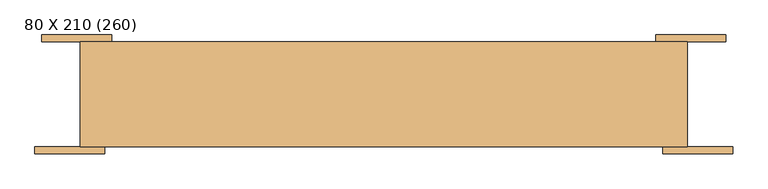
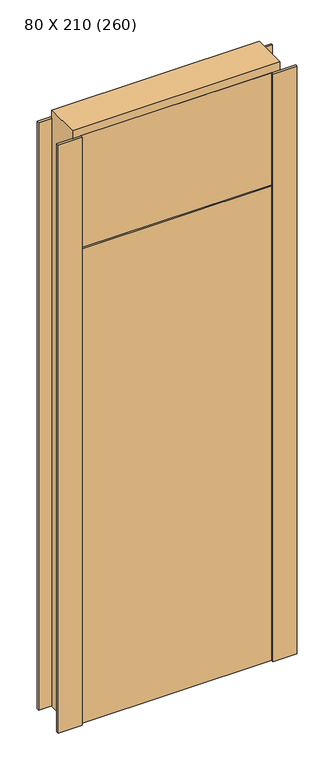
"""IFC4 building model written with IfcOpenShell, lengths in millimetres: door geometry, PORTA DE ABRIR - 1 FOLHA + BANDEIRA FIXA - 1 FOLHA : 80 X 210 (260)."""

from ifc_helpers import new_model, si_unit, origin, origin_with_axes, place, context, project, spatial, polyline, outline, extrude, faceted_brep, source, transform, mapped, element, save


def door_80_x_210_260_7b3409cb(model_context):
    return source(origin(), model_context, "Body", "SolidModel", [
        extrude(outline(polyline([(480.0, -75.0), (-320.0, -75.0), (-320.0, -35.0), (480.0, -35.0), (480.0, -75.0)])), origin_with_axes(), (0.0, 0.0, 1.0), 2100.0),
        faceted_brep([(480.0, -85.0, 0.0), (580.0, -85.0, 0.0), (580.0, -85.0, 2600.0), (480.0, -85.0, 2600.0), (480.0, -75.0, 0.0), (580.0, -75.0, 0.0), (580.0, -75.0, 2600.0), (480.0, -75.0, 2600.0), (480.0, -75.0, 2105.0)], [[[0, 1, 2, 3]], [[1, 0, 4, 5]], [[2, 1, 5, 6]], [[0, 3, 7, 8, 4]], [[7, 6, 5, 4, 8]], [[3, 2, 6, 7]]]),
        faceted_brep([(-320.0, -85.0, 2600.0), (-420.0, -85.0, 2600.0), (-420.0, -85.0, 0.0), (-320.0, -85.0, 0.0), (-420.0, -75.0, 2600.0), (-420.0, -75.0, 0.0), (-320.0, -75.0, 0.0), (-320.0, -75.0, 2105.0), (-320.0, -75.0, 2600.0)], [[[0, 1, 2, 3]], [[2, 1, 4, 5]], [[3, 2, 5, 6]], [[0, 3, 6, 7, 8]], [[6, 5, 4, 8, 7]], [[1, 0, 8, 4]]]),
        faceted_brep([(480.0, -75.0, 2600.0), (480.0, -35.0, 2600.0), (-320.0, -35.0, 2600.0), (-320.0, -75.0, 2600.0), (480.0, -75.0, 2105.0), (480.0, -35.0, 2105.0), (-320.0, -35.0, 2105.0), (-320.0, -75.0, 2105.0)], [[[0, 1, 2, 3]], [[1, 0, 4, 5]], [[2, 1, 5, 6]], [[3, 2, 6, 7]], [[0, 3, 7, 4]], [[4, 7, 6, 5]]]),
        extrude(outline(polyline([(-410.0, 85.0), (-310.0, 85.0), (-310.0, 75.0), (-410.0, 75.0), (-410.0, 85.0)])), origin_with_axes(), (0.0, 0.0, 1.0), 2600.0),
        extrude(outline(polyline([(470.0, 85.0), (570.0, 85.0), (570.0, 75.0), (470.0, 75.0), (470.0, 85.0)])), origin_with_axes(), (0.0, 0.0, 1.0), 2600.0),
        faceted_brep([(515.0, 75.0, 0.0), (515.0, -75.0, 0.0), (480.0, -75.0, 0.0), (480.0, -35.0, 0.0), (470.0, -35.0, 0.0), (470.0, 75.0, 0.0), (515.0, 75.0, 2635.0), (515.0, -75.0, 2635.0), (-355.0, -75.0, 2635.0), (-355.0, -75.0, 0.0), (-320.0, -75.0, 0.0), (-320.0, -75.0, 2600.0), (480.0, -75.0, 2600.0), (480.0, -35.0, 2600.0), (470.0, -35.0, 2600.0), (470.0, 75.0, 2600.0), (-310.0, 75.0, 2600.0), (-310.0, 75.0, 0.0), (-355.0, 75.0, 0.0), (-355.0, 75.0, 2635.0), (-310.0, -35.0, 0.0), (-320.0, -35.0, 0.0), (-320.0, -35.0, 2600.0), (-310.0, -35.0, 2600.0)], [[[0, 1, 2, 3, 4, 5]], [[1, 0, 6, 7]], [[2, 1, 7, 8, 9, 10, 11, 12]], [[3, 2, 12, 13]], [[4, 3, 13, 14]], [[5, 4, 14, 15]], [[0, 5, 15, 16, 17, 18, 19, 6]], [[9, 8, 19, 18]], [[18, 17, 20, 21, 10, 9]], [[10, 21, 22, 11]], [[20, 17, 16, 23]], [[21, 20, 23, 22]], [[19, 8, 7, 6]], [[13, 12, 11, 22, 23, 16, 15, 14]]]),
    ])


if __name__ == "__main__":
    model = new_model("IFC4")
    model_context = context("Model", 3, world=origin())
    ifc_project = project(units=[si_unit("LENGTHUNIT", "METRE", prefix="MILLI")], contexts=[model_context])
    site = spatial("IfcSite", under=ifc_project)
    building = spatial("IfcBuilding", under=site)
    placement = place(None, origin())
    door_80_x_210_260_shape = door_80_x_210_260_7b3409cb(model_context)
    element("IfcDoor", 1, ObjectType="PORTA DE ABRIR - 1 FOLHA + BANDEIRA FIXA - 1 FOLHA : 80 X 210 (260)", at=placement, inside=building, context=model_context, shape_type="MappedRepresentation", body=[
        mapped(door_80_x_210_260_shape, transform((0.0, 0.0, 0.0), x_axis=(1.0, 0.0, 0.0), y_axis=(0.0, 1.0, 0.0), z_axis=(0.0, 0.0, 1.0))),
    ])
    save(model, "model.ifc")
